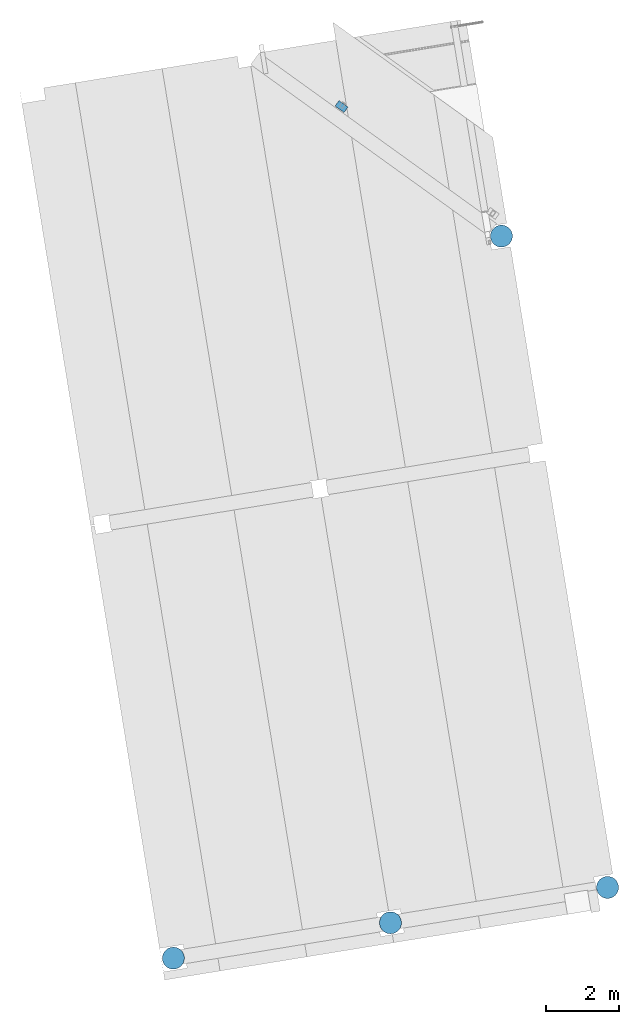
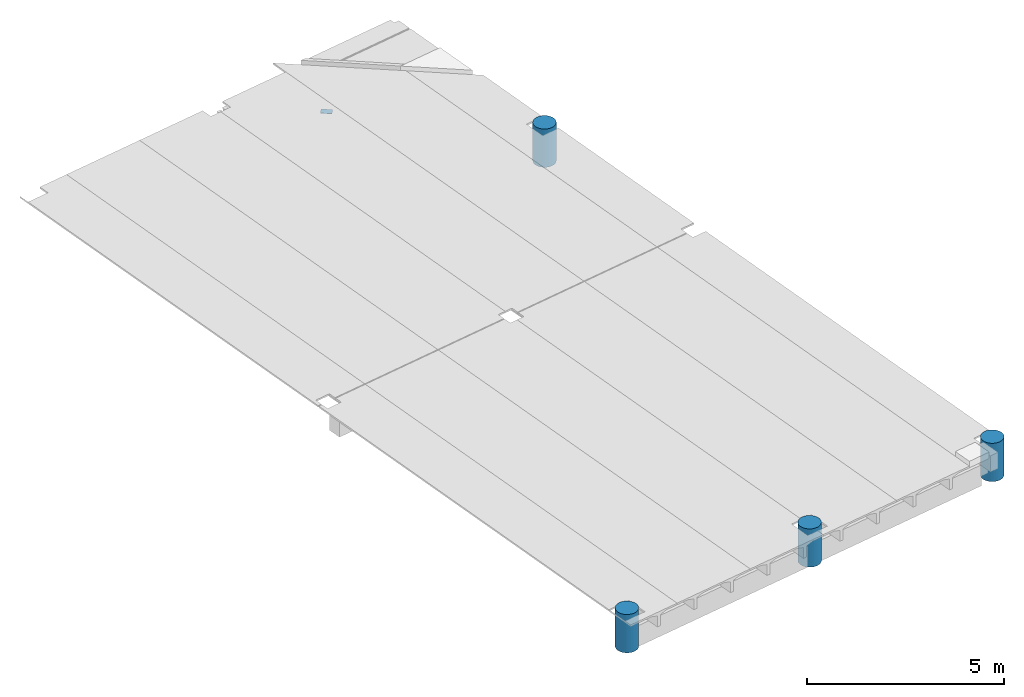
# One storey, part 1 of 5: 5 columns.
"""IFC2X3 building model written with IfcOpenShell, lengths in millimetres."""

from ifc_helpers import new_model, entity, si_unit, converted_unit, derived_unit, direction, frame, origin, origin_with_axes, origin_2d_with_axis, place, context, subcontext, project, spatial, polyline, rectangle, outline, extrude, type_object, element, save


model = new_model("IFC2X3")

# Units and contexts
model_context = context("Model", 3, precision=0.01, world=origin(), true_north=direction((6.12323399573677e-17, 1.0)))
plan_context = context("Plan", 3, precision=1e-05, world=origin_with_axes())
body_context = subcontext(model_context, "Body", "Model", "MODEL_VIEW")
ifc_project = project(units=[converted_unit("PLANEANGLEUNIT", "DEGREE", entity("IfcPositiveLengthMeasure", 0.0174532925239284), si_unit("PLANEANGLEUNIT", "RADIAN"), dimensions=[0, 0, 0, 0, 0, 0, 0]), si_unit("AREAUNIT", "SQUARE_METRE"), si_unit("LENGTHUNIT", "METRE", prefix="MILLI"), si_unit("MASSUNIT", "GRAM", prefix="KILO"), si_unit("POWERUNIT", "WATT"), si_unit("PRESSUREUNIT", "PASCAL", prefix="KILO"), si_unit("FORCEUNIT", "NEWTON", prefix="KILO"), si_unit("ELECTRICVOLTAGEUNIT", "VOLT"), si_unit("ELECTRICCURRENTUNIT", "AMPERE"), si_unit("THERMODYNAMICTEMPERATUREUNIT", "DEGREE_CELSIUS"), si_unit("TIMEUNIT", "SECOND"), si_unit("VOLUMEUNIT", "CUBIC_METRE"), derived_unit("LINEARVELOCITYUNIT", [(si_unit("LENGTHUNIT", "METRE"), 1), (si_unit("TIMEUNIT", "SECOND"), -1)]), derived_unit("VOLUMETRICFLOWRATEUNIT", [(si_unit("VOLUMEUNIT", "CUBIC_METRE"), 1), (si_unit("TIMEUNIT", "SECOND"), -1)]), derived_unit("THERMALTRANSMITTANCEUNIT", [(si_unit("POWERUNIT", "WATT"), 1), (si_unit("THERMODYNAMICTEMPERATUREUNIT", "KELVIN"), -1), (si_unit("AREAUNIT", "SQUARE_METRE"), -1)]), derived_unit("SOUNDPRESSUREUNIT", [(si_unit("PRESSUREUNIT", "PASCAL"), 1)])], contexts=[model_context, plan_context])

# Site, building, storey
site_placement = place(None, frame((5.09380697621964e-08, 5.80416781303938e-08, 0.0), z_axis=(0.0, 0.0, 1.0), x_axis=(-0.160806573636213, 0.986985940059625, 0.0)))
site = spatial("IfcSite", under=ifc_project, at=site_placement, Name="Default", CompositionType="ELEMENT")
building_placement = place(site_placement, frame((0.0, 0.0, 0.0), z_axis=(0.0, 0.0, 1.0), x_axis=(1.0, -2.77555756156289e-17, 0.0)))
building = spatial("IfcBuilding", under=site, at=building_placement, CompositionType="ELEMENT")
storey_placement = place(building_placement, frame((0.0, 0.0, 51360.0000000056), z_axis=(0.0, 0.0, 1.0), x_axis=(1.0, -2.77555756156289e-17, 0.0)))
storey = spatial("IfcBuildingStorey", under=building, at=storey_placement, Name="H01-Nivå D+0,36", CompositionType="ELEMENT", Elevation=51360.0000000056)

# Columns
column_type_1 = type_object("IfcColumnType", Name="D600", PredefinedType="NOTDEFINED")
column_1_placement = place(storey_placement, frame((0.0, 0.0, 0.0), z_axis=(0.0, 0.0, 1.0), x_axis=(1.0, -2.77555756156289e-17, 0.0)))
element("IfcColumn", 1, at=column_1_placement, inside=storey, type_object=column_type_1, Name="PLASSTØPTSØYLE", ObjectType="D600", context=body_context, shape_type="SweptSolid", body=[
    extrude(outline(polyline([(-23.5377287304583, -299.075200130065), (23.5377287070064, -299.075200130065), (70.0336091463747, -291.710976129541), (114.805029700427, -277.163859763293), (156.749569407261, -255.792049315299), (194.834414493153, -228.121789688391), (228.121789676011, -194.834414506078), (255.792049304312, -156.749569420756), (277.163859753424, -114.805029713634), (291.710976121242, -70.0336091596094), (299.075200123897, -23.537728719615), (299.075200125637, 23.5377287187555), (291.710976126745, 70.0336091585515), (277.163859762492, 114.805029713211), (255.792049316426, 156.749569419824), (228.121789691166, 194.834414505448), (194.834414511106, 228.121789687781), (156.749569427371, 255.792049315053), (114.805029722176, 277.16385976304), (70.0336091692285, 291.710976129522), (23.5377287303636, 299.075200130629), (-23.537728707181, 299.075200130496), (-70.0336091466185, 291.710976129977), (-114.805029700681, 277.163859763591), (-156.749569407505, 255.792049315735), (-194.83441449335, 228.121789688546), (-228.121789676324, 194.83441450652), (-255.79204930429, 156.749569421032), (-277.16385975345, 114.805029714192), (-291.710976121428, 70.033609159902), (-299.075200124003, 23.5377287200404), (-299.075200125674, -23.5377287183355), (-291.710976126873, -70.0336091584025), (-277.16385976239, -114.805029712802), (-255.79204931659, -156.749569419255), (-228.121789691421, -194.83441450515), (-194.834414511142, -228.121789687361), (-156.749569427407, -255.792049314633), (-114.805029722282, -277.163859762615), (-70.0336091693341, -291.710976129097), (-23.5377287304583, -299.075200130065)])), frame((1010638.58299665, -396380.248874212, 2879.9999999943), z_axis=(0.0, 0.0, 1.0), x_axis=(0.0784642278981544, -0.996916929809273, 0.0)), (0.0, 0.0, 1.0), 1190.00000000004),
])
column_2_placement = place(storey_placement, frame((0.0, 0.0, 0.0), z_axis=(0.0, 0.0, 1.0), x_axis=(1.0, -2.77555756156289e-17, 0.0)))
element("IfcColumn", 2, at=column_2_placement, inside=storey, type_object=column_type_1, Name="PLASSTØPTSØYLE", ObjectType="D600", context=body_context, shape_type="SweptSolid", body=[
    extrude(outline(polyline([(-23.5377287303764, -299.07520013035), (23.5377287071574, -299.07520013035), (70.0336091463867, -291.710976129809), (114.805029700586, -277.163859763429), (156.749569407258, -255.792049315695), (194.834414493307, -228.121789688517), (228.12178967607, -194.834414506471), (255.792049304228, -156.749569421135), (277.163859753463, -114.805029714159), (291.710976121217, -70.0336091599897), (299.075200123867, -23.5377287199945), (299.075200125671, 23.5377287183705), (291.710976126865, 70.0336091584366), (277.163859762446, 114.805029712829), (255.792049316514, 156.749569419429), (228.121789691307, 194.834414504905), (194.834414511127, 228.121789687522), (156.749569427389, 255.792049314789), (114.805029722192, 277.163859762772), (70.0336091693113, 291.710976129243), (23.5377287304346, 299.075200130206), (-23.5377287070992, 299.075200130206), (-70.0336091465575, 291.710976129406), (-114.805029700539, 277.163859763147), (-156.749569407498, 255.792049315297), (-194.83441449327, 228.121789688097), (-228.12178967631, 194.834414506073), (-255.792049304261, 156.74956942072), (-277.163859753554, 114.805029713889), (-291.710976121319, 70.0336091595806), (-299.075200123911, 23.5377287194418), (-299.075200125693, -23.5377287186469), (-291.710976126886, -70.033609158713), (-277.163859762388, -114.805029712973), (-255.792049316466, -156.74956941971), (-228.121789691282, -194.834414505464), (-194.834414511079, -228.121789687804), (-156.74956942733, -255.792049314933), (-114.805029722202, -277.16385976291), (-70.033609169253, -291.710976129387), (-23.5377287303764, -299.07520013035)])), frame((992638.582995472, -396380.328417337, 2879.9999999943), z_axis=(0.0, 0.0, 1.0), x_axis=(0.0784642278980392, -0.996916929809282, 0.0)), (0.0, 0.0, 1.0), 1190.00000000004),
])
column_3_placement = place(storey_placement, frame((0.0, 0.0, 0.0), z_axis=(0.0, 0.0, 1.0), x_axis=(1.0, -2.77555756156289e-17, 0.0)))
element("IfcColumn", 3, at=column_3_placement, inside=storey, type_object=column_type_1, Name="PLASSTØPTSØYLE", ObjectType="D600", context=body_context, shape_type="SweptSolid", body=[
    extrude(outline(polyline([(-23.5377287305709, -299.075200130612), (23.5377287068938, -299.075200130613), (70.033609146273, -291.71097612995), (114.805029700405, -277.163859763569), (156.749569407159, -255.792049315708), (194.834414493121, -228.121789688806), (228.121789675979, -194.834414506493), (255.79204930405, -156.74956942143), (277.163859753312, -114.805029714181), (291.710976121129, -70.0336091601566), (299.075200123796, -23.5377287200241), (299.075200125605, 23.537728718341), (291.710976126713, 70.033609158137), (277.163859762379, 114.805029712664), (255.792049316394, 156.74956941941), (228.121789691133, 194.834414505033), (194.834414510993, 228.121789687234), (156.749569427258, 255.792049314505), (114.805029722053, 277.163859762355), (70.0336091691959, 291.710976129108), (23.5377287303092, 299.075200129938), (-23.5377287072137, 299.075200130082), (-70.0336091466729, 291.710976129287), (-114.805029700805, 277.163859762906), (-156.749569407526, 255.792049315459), (-194.834414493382, 228.121789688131), (-228.121789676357, 194.834414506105), (-255.792049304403, 156.749569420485), (-277.163859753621, 114.805029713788), (-291.71097612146, 70.0336091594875), (-299.075200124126, 23.5377287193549), (-299.075200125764, -23.5377287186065), (-291.710976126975, -70.0336091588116), (-277.16385976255, -114.805029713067), (-255.792049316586, -156.74956942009), (-228.121789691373, -194.834414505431), (-194.834414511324, -228.121789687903), (-156.749569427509, -255.792049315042), (-114.805029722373, -277.163859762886), (-70.0336091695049, -291.7109761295), (-23.5377287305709, -299.075200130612)])), frame((992638.556480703, -390380.328417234, 2879.9999999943), z_axis=(0.0, 0.0, 1.0), x_axis=(0.0784642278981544, -0.996916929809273, 0.0)), (0.0, 0.0, 1.0), 1190.00000000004),
])
column_4_placement = place(storey_placement, frame((0.0, 0.0, 0.0), z_axis=(0.0, 0.0, 1.0), x_axis=(1.0, -2.77555756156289e-17, 0.0)))
element("IfcColumn", 4, at=column_4_placement, inside=storey, type_object=column_type_1, Name="PLASSTØPTSØYLE", ObjectType="D600", context=body_context, shape_type="SweptSolid", body=[
    extrude(outline(polyline([(-23.5377287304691, -299.075200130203), (23.5377287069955, -299.075200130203), (70.0336091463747, -291.710976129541), (114.805029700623, -277.163859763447), (156.749569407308, -255.79204931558), (194.834414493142, -228.121789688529), (228.121789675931, -194.834414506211), (255.792049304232, -156.749569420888), (277.163859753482, -114.805029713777), (291.710976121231, -70.0336091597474), (299.075200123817, -23.5377287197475), (299.075200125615, 23.5377287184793), (291.710976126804, 70.0336091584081), (277.163859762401, 114.80502971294), (255.792049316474, 156.749569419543), (228.121789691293, 194.834414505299), (194.834414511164, 228.121789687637), (156.749569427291, 255.79204931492), (114.805029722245, 277.163859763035), (70.0336091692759, 291.71097612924), (23.5377287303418, 299.075200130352), (-23.537728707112, 299.075200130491), (-70.0336091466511, 291.710976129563), (-114.805029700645, 277.163859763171), (-156.749569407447, 255.792049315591), (-194.834414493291, 228.121789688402), (-228.121789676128, 194.834414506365), (-255.79204930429, 156.749569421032), (-277.163859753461, 114.805029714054), (-291.710976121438, 70.0336091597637), (-299.075200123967, 23.5377287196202), (-299.075200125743, -23.5377287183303), (-291.710976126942, -70.0336091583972), (-277.163859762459, -114.805029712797), (-255.792049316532, -156.749569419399), (-228.121789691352, -194.834414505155), (-194.834414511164, -228.121789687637), (-156.749569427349, -255.792049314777), (-114.805029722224, -277.163859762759), (-70.0336091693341, -291.710976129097), (-23.5377287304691, -299.075200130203)])), frame((992638.529965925, -384380.328417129, 2879.9999999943), z_axis=(0.0, 0.0, 1.0), x_axis=(0.0784642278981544, -0.996916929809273, 0.0)), (0.0, 0.0, 1.0), 1190.00000000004),
])
column_type_2 = type_object("IfcColumnType", Name="185*300", PredefinedType="NOTDEFINED")
column_5_placement = place(storey_placement, frame((0.0, 0.0, 0.0), z_axis=(0.0, 0.0, 1.0), x_axis=(1.0, -2.77555756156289e-17, 0.0)))
element("IfcColumn", 5, at=column_5_placement, inside=storey, type_object=column_type_2, Name="STÅLSØYLE", ObjectType="185*300", context=body_context, shape_type="SweptSolid", body=[
    extrude(rectangle(XDim=184.999999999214, YDim=300.000000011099, at=origin_2d_with_axis()), frame((1014829.58495051, -392642.934143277, 3784.99999999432), z_axis=(0.0, 0.0, 1.0), x_axis=(-0.707109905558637, 0.707103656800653, 0.0)), (0.0, 0.0, 1.0), 9.99999999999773),
])

save(model, "model.ifc")
